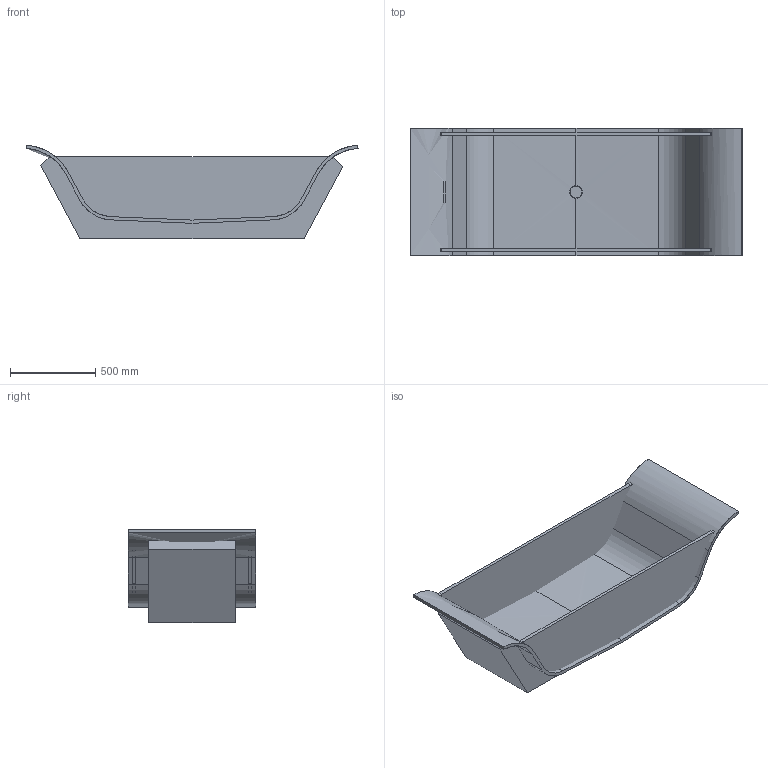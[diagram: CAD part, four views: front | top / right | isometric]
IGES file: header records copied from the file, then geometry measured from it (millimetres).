
Global section: file name: D:\Desktop\GIOVANNI\SCHEDE PRODOTTO\VASCHE\VASCHE FREESTANDING\CHAISE LONGUE VITRE'\3D\CHAISE LONGUE VITRE'.igs; native system: Rhinoceros ( Jan 17 2018 ); preprocessor: Trout Lake IGES 012 Jan 17 2018; date: 230530.153607; units: millimetre
Bounding box: 1950 x 750 x 549.6 mm (x, y, z)
Surface area: 8547866.4 mm2 (no closed solid volume)
Topology: 0 solids, 0 shells, 90 faces, 461 edges, 459 vertices
Faces by surface type: bspline 90
